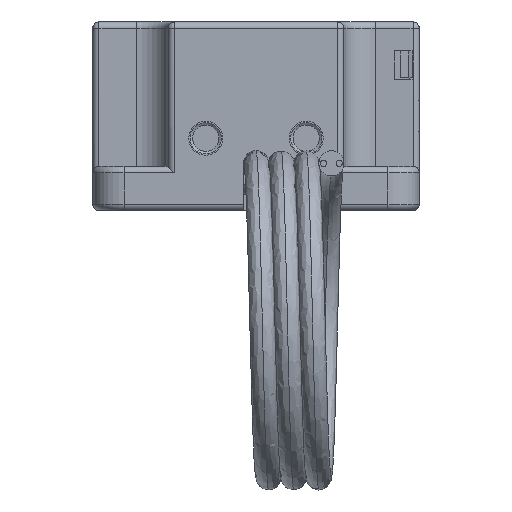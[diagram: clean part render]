
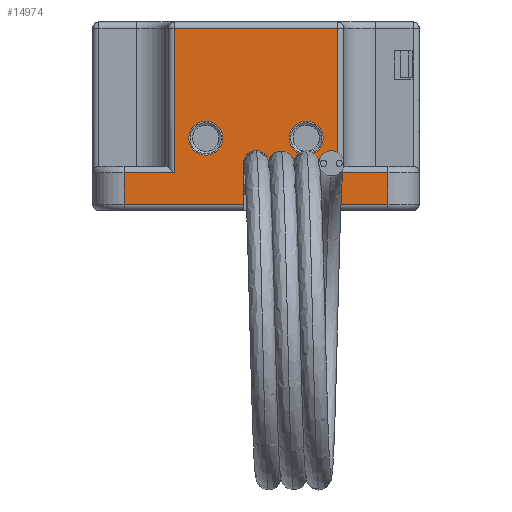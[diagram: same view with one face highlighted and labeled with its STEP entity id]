
A CAD part, left-side view. The second image highlights one B-rep face of the part: STEP entity #14974.
In plain terms, the highlighted planar face has unit normal (-1, 0, 0).
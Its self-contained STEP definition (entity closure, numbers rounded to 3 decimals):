
#47 = DIRECTION ( 'NONE',  ( 0., 0., 1. ) ) ;
#702 = EDGE_CURVE ( 'NONE', #21037, #3815, #2689, .T. ) ;
#800 = VERTEX_POINT ( 'NONE', #29655 ) ;
#1304 = CARTESIAN_POINT ( 'NONE',  ( -36., -2., -7.5 ) ) ;
#1555 = EDGE_CURVE ( 'NONE', #10738, #26673, #33304, .T. ) ;
#1605 = PLANE ( 'NONE',  #14831 ) ;
#1956 = LINE ( 'NONE', #5564, #10383 ) ;
#2078 = DIRECTION ( 'NONE',  ( -1., 0., 0. ) ) ;
#2546 = EDGE_CURVE ( 'NONE', #19946, #13085, #4742, .T. ) ;
#2689 = LINE ( 'NONE', #14202, #14215 ) ;
#2725 = LINE ( 'NONE', #8743, #11162 ) ;
#2737 = ORIENTED_EDGE ( 'NONE', *, *, #2546, .T. ) ;
#2813 = ORIENTED_EDGE ( 'NONE', *, *, #6170, .T. ) ;
#2914 = VERTEX_POINT ( 'NONE', #33497 ) ;
#3462 = VERTEX_POINT ( 'NONE', #8130 ) ;
#3815 = VERTEX_POINT ( 'NONE', #1304 ) ;
#4373 = VECTOR ( 'NONE', #14522, 1000. ) ;
#4474 = CARTESIAN_POINT ( 'NONE',  ( -36., 2., -14. ) ) ;
#4573 = CARTESIAN_POINT ( 'NONE',  ( -36., -21., 15. ) ) ;
#4700 = CARTESIAN_POINT ( 'NONE',  ( -36., 21., -14. ) ) ;
#4742 = LINE ( 'NONE', #15641, #22971 ) ;
#4807 = DIRECTION ( 'NONE',  ( 0., 0., 1. ) ) ;
#4891 = DIRECTION ( 'NONE',  ( 0., 1., 0. ) ) ;
#4935 = FACE_BOUND ( 'NONE', #21211, .T. ) ;
#5053 = ORIENTED_EDGE ( 'NONE', *, *, #22697, .T. ) ;
#5073 = EDGE_CURVE ( 'NONE', #22855, #23576, #1956, .T. ) ;
#5096 = VECTOR ( 'NONE', #27318, 1000. ) ;
#5431 = VECTOR ( 'NONE', #28281, 1000. ) ;
#5564 = CARTESIAN_POINT ( 'NONE',  ( -36., 13., 15. ) ) ;
#6100 = CIRCLE ( 'NONE', #16350, 2.7 ) ;
#6170 = EDGE_CURVE ( 'NONE', #3462, #19946, #11120, .T. ) ;
#6439 = EDGE_CURVE ( 'NONE', #800, #2914, #13335, .T. ) ;
#6967 = ORIENTED_EDGE ( 'NONE', *, *, #5073, .T. ) ;
#7190 = EDGE_LOOP ( 'NONE', ( #34343, #20804 ) ) ;
#7441 = CARTESIAN_POINT ( 'NONE',  ( -36., -26., -9. ) ) ;
#8130 = CARTESIAN_POINT ( 'NONE',  ( -36., 21., -9. ) ) ;
#8562 = ORIENTED_EDGE ( 'NONE', *, *, #6439, .F. ) ;
#8649 = CARTESIAN_POINT ( 'NONE',  ( -36., 13., 14. ) ) ;
#8743 = CARTESIAN_POINT ( 'NONE',  ( -36., -13., 15. ) ) ;
#8872 = AXIS2_PLACEMENT_3D ( 'NONE', #9670, #35051, #35306 ) ;
#9274 = VECTOR ( 'NONE', #22095, 1000. ) ;
#9275 = DIRECTION ( 'NONE',  ( -1., 0., 0. ) ) ;
#9437 = CARTESIAN_POINT ( 'NONE',  ( -36., 2., -7.5 ) ) ;
#9442 = VERTEX_POINT ( 'NONE', #29276 ) ;
#9670 = CARTESIAN_POINT ( 'NONE',  ( -36., 0., -7.5 ) ) ;
#9859 = DIRECTION ( 'NONE',  ( 0., -1., 0. ) ) ;
#9868 = ORIENTED_EDGE ( 'NONE', *, *, #30983, .F. ) ;
#10012 = DIRECTION ( 'NONE',  ( 1., 0., 0. ) ) ;
#10121 = CARTESIAN_POINT ( 'NONE',  ( -36., -8., -0.8 ) ) ;
#10319 = VERTEX_POINT ( 'NONE', #9437 ) ;
#10383 = VECTOR ( 'NONE', #22127, 1000. ) ;
#10738 = VERTEX_POINT ( 'NONE', #35395 ) ;
#10792 = CARTESIAN_POINT ( 'NONE',  ( -36., -2., -14. ) ) ;
#10922 = CARTESIAN_POINT ( 'NONE',  ( -36., -8., -6.2 ) ) ;
#10956 = VERTEX_POINT ( 'NONE', #10121 ) ;
#11120 = LINE ( 'NONE', #31120, #34717 ) ;
#11162 = VECTOR ( 'NONE', #47, 1000. ) ;
#11581 = FACE_OUTER_BOUND ( 'NONE', #33532, .T. ) ;
#11736 = VECTOR ( 'NONE', #13124, 1000. ) ;
#11779 = ORIENTED_EDGE ( 'NONE', *, *, #19940, .T. ) ;
#11812 = ORIENTED_EDGE ( 'NONE', *, *, #702, .F. ) ;
#11908 = LINE ( 'NONE', #22777, #4373 ) ;
#12126 = DIRECTION ( 'NONE',  ( 0., 0., -1. ) ) ;
#12558 = VECTOR ( 'NONE', #4891, 1000. ) ;
#13085 = VERTEX_POINT ( 'NONE', #4474 ) ;
#13124 = DIRECTION ( 'NONE',  ( 0., -1., 0. ) ) ;
#13335 = CIRCLE ( 'NONE', #29274, 2.7 ) ;
#14202 = CARTESIAN_POINT ( 'NONE',  ( -36., -2., -15. ) ) ;
#14215 = VECTOR ( 'NONE', #24798, 1000. ) ;
#14522 = DIRECTION ( 'NONE',  ( 0., 0., -1. ) ) ;
#14569 = EDGE_CURVE ( 'NONE', #3815, #10319, #16533, .T. ) ;
#14831 = AXIS2_PLACEMENT_3D ( 'NONE', #32526, #10012, #26684 ) ;
#14974 = ADVANCED_FACE ( 'NONE', ( #4935, #26726, #11581 ), #1605, .F. ) ;
#15641 = CARTESIAN_POINT ( 'NONE',  ( -36., -21., -14. ) ) ;
#16119 = CARTESIAN_POINT ( 'NONE',  ( -36., -26., -9. ) ) ;
#16350 = AXIS2_PLACEMENT_3D ( 'NONE', #26309, #9275, #12126 ) ;
#16452 = CARTESIAN_POINT ( 'NONE',  ( -36., -26., 14. ) ) ;
#16507 = EDGE_CURVE ( 'NONE', #10319, #13085, #11908, .T. ) ;
#16533 = CIRCLE ( 'NONE', #8872, 2. ) ;
#18537 = VERTEX_POINT ( 'NONE', #10922 ) ;
#18804 = LINE ( 'NONE', #16452, #12558 ) ;
#19884 = EDGE_CURVE ( 'NONE', #9442, #10738, #29996, .T. ) ;
#19940 = EDGE_CURVE ( 'NONE', #21037, #9442, #23772, .T. ) ;
#19946 = VERTEX_POINT ( 'NONE', #4700 ) ;
#20500 = EDGE_CURVE ( 'NONE', #21440, #22855, #18804, .T. ) ;
#20799 = CIRCLE ( 'NONE', #26867, 2.7 ) ;
#20804 = ORIENTED_EDGE ( 'NONE', *, *, #28863, .F. ) ;
#21037 = VERTEX_POINT ( 'NONE', #10792 ) ;
#21211 = EDGE_LOOP ( 'NONE', ( #8562, #9868 ) ) ;
#21440 = VERTEX_POINT ( 'NONE', #30034 ) ;
#21473 = CARTESIAN_POINT ( 'NONE',  ( -36., -21., -14. ) ) ;
#21840 = CARTESIAN_POINT ( 'NONE',  ( -36., 8., -3.5 ) ) ;
#22095 = DIRECTION ( 'NONE',  ( 0., 1., 0. ) ) ;
#22127 = DIRECTION ( 'NONE',  ( 0., 0., -1. ) ) ;
#22518 = CARTESIAN_POINT ( 'NONE',  ( -36., 13., -9. ) ) ;
#22697 = EDGE_CURVE ( 'NONE', #23576, #3462, #29484, .T. ) ;
#22777 = CARTESIAN_POINT ( 'NONE',  ( -36., 2., -7.5 ) ) ;
#22855 = VERTEX_POINT ( 'NONE', #8649 ) ;
#22971 = VECTOR ( 'NONE', #9859, 1000. ) ;
#23179 = EDGE_CURVE ( 'NONE', #26673, #21440, #2725, .T. ) ;
#23576 = VERTEX_POINT ( 'NONE', #22518 ) ;
#23772 = LINE ( 'NONE', #21473, #11736 ) ;
#23977 = DIRECTION ( 'NONE',  ( -1., 0., 0. ) ) ;
#24798 = DIRECTION ( 'NONE',  ( 0., 0., 1. ) ) ;
#24928 = ORIENTED_EDGE ( 'NONE', *, *, #16507, .F. ) ;
#25193 = CARTESIAN_POINT ( 'NONE',  ( -36., 8., -3.5 ) ) ;
#25248 = DIRECTION ( 'NONE',  ( 0., 0., -1. ) ) ;
#26309 = CARTESIAN_POINT ( 'NONE',  ( -36., -8., -3.5 ) ) ;
#26673 = VERTEX_POINT ( 'NONE', #27353 ) ;
#26684 = DIRECTION ( 'NONE',  ( 0., 0., -1. ) ) ;
#26726 = FACE_BOUND ( 'NONE', #7190, .T. ) ;
#26867 = AXIS2_PLACEMENT_3D ( 'NONE', #25193, #36553, #36307 ) ;
#27167 = CIRCLE ( 'NONE', #29417, 2.7 ) ;
#27310 = ORIENTED_EDGE ( 'NONE', *, *, #14569, .F. ) ;
#27318 = DIRECTION ( 'NONE',  ( 0., 0., 1. ) ) ;
#27353 = CARTESIAN_POINT ( 'NONE',  ( -36., -13., -9. ) ) ;
#28281 = DIRECTION ( 'NONE',  ( 0., 1., 0. ) ) ;
#28863 = EDGE_CURVE ( 'NONE', #18537, #10956, #27167, .T. ) ;
#29110 = ORIENTED_EDGE ( 'NONE', *, *, #19884, .T. ) ;
#29120 = ORIENTED_EDGE ( 'NONE', *, *, #1555, .T. ) ;
#29274 = AXIS2_PLACEMENT_3D ( 'NONE', #21840, #2078, #4807 ) ;
#29276 = CARTESIAN_POINT ( 'NONE',  ( -36., -21., -14. ) ) ;
#29417 = AXIS2_PLACEMENT_3D ( 'NONE', #35676, #23977, #29951 ) ;
#29484 = LINE ( 'NONE', #7441, #5431 ) ;
#29655 = CARTESIAN_POINT ( 'NONE',  ( -36., 8., -0.8 ) ) ;
#29951 = DIRECTION ( 'NONE',  ( 0., 0., -1. ) ) ;
#29996 = LINE ( 'NONE', #4573, #5096 ) ;
#30034 = CARTESIAN_POINT ( 'NONE',  ( -36., -13., 14. ) ) ;
#30983 = EDGE_CURVE ( 'NONE', #2914, #800, #20799, .T. ) ;
#31120 = CARTESIAN_POINT ( 'NONE',  ( -36., 21., 15. ) ) ;
#32500 = ORIENTED_EDGE ( 'NONE', *, *, #20500, .T. ) ;
#32526 = CARTESIAN_POINT ( 'NONE',  ( -36., -26., 15. ) ) ;
#33304 = LINE ( 'NONE', #16119, #9274 ) ;
#33497 = CARTESIAN_POINT ( 'NONE',  ( -36., 8., -6.2 ) ) ;
#33532 = EDGE_LOOP ( 'NONE', ( #2737, #24928, #27310, #11812, #11779, #29110, #29120, #36584, #32500, #6967, #5053, #2813 ) ) ;
#34079 = EDGE_CURVE ( 'NONE', #10956, #18537, #6100, .T. ) ;
#34343 = ORIENTED_EDGE ( 'NONE', *, *, #34079, .F. ) ;
#34717 = VECTOR ( 'NONE', #25248, 1000. ) ;
#35051 = DIRECTION ( 'NONE',  ( -1., 0., 0. ) ) ;
#35306 = DIRECTION ( 'NONE',  ( 0., 0., 1. ) ) ;
#35395 = CARTESIAN_POINT ( 'NONE',  ( -36., -21., -9. ) ) ;
#35676 = CARTESIAN_POINT ( 'NONE',  ( -36., -8., -3.5 ) ) ;
#36307 = DIRECTION ( 'NONE',  ( 0., 0., 1. ) ) ;
#36553 = DIRECTION ( 'NONE',  ( -1., 0., 0. ) ) ;
#36584 = ORIENTED_EDGE ( 'NONE', *, *, #23179, .T. ) ;
